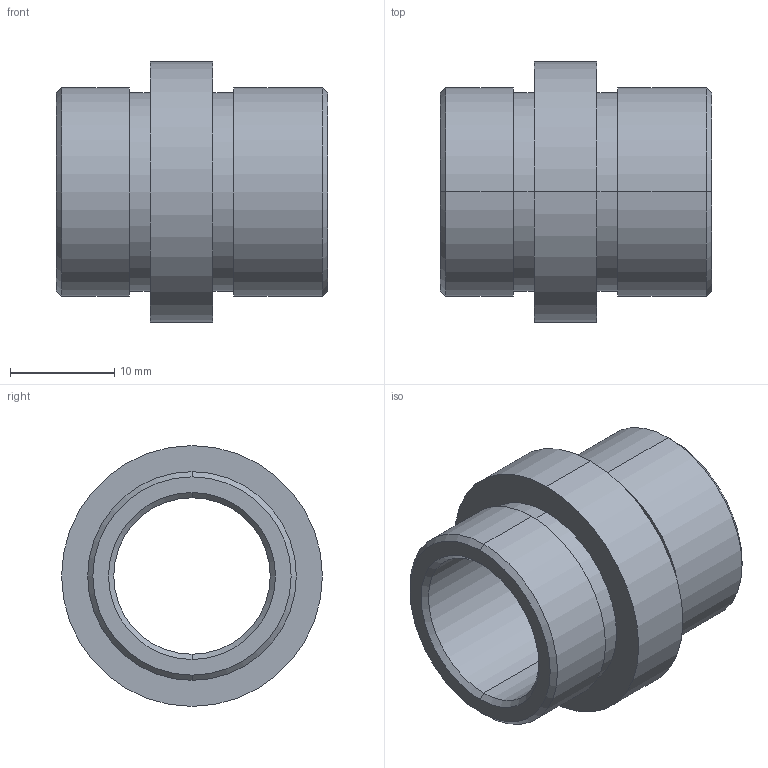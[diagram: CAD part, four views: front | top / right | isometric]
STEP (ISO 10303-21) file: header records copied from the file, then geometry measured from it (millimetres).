
FILE_DESCRIPTION( ( 'STEP AP203' ), '1' );
FILE_NAME( 'C:/Projects/D21 - 15x17.step', '2002-12-31T22:32:18', ( ' ' ), ( ' ' ), 'XStep 1.0', ' ', ' ' );
FILE_SCHEMA( ( 'CONFIG_CONTROL_DESIGN' ) );
Length unit declared in the file: metre
Products named in the file (1): 1
Bounding box: 26 x 25 x 25 mm (x, y, z)
Volume: 4483.8 mm3; surface area: 3627 mm2
Topology: 1 solids, 1 shells, 26 faces, 52 edges, 32 vertices
Faces by surface type: revolution 20, bspline 6
Entity records: 773 total; most frequent: CARTESIAN_POINT 169, DIRECTION 106, ORIENTED_EDGE 104, EDGE_CURVE 52, AXIS2_PLACEMENT_3D 33, EDGE_LOOP 32, VERTEX_POINT 32, CIRCLE 32
